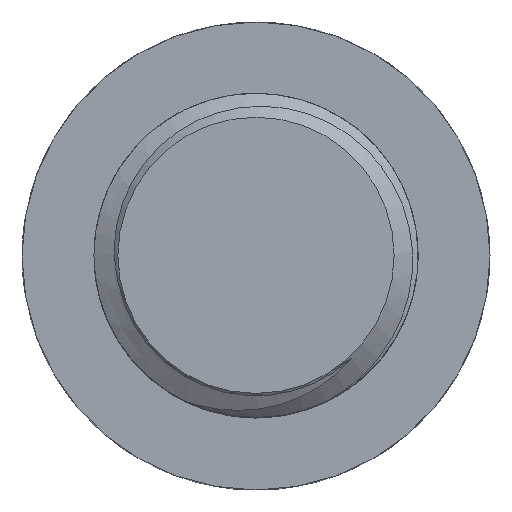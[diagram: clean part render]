
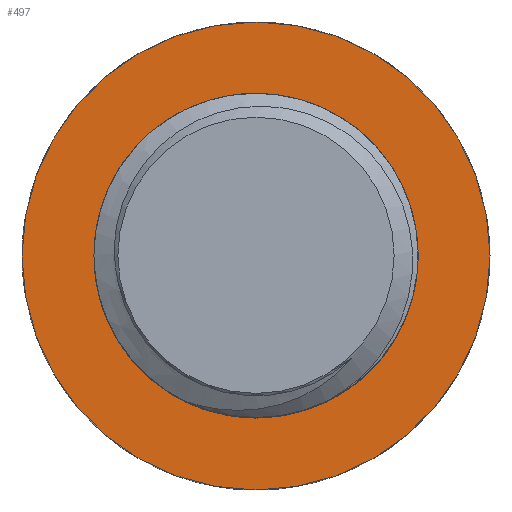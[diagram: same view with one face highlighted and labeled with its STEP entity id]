
A CAD part, top view. The second image highlights one B-rep face of the part: STEP entity #497.
In plain terms, the highlighted planar face has unit normal (0, 0, 1).
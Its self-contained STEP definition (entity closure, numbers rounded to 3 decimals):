
#22=FACE_BOUND('',#79,.T.);
#28=PLANE('',#549);
#50=FACE_OUTER_BOUND('',#78,.T.);
#78=EDGE_LOOP('',(#386));
#79=EDGE_LOOP('',(#387));
#90=CIRCLE('',#524,6.761);
#98=CIRCLE('',#550,9.761);
#192=VERTEX_POINT('',#716);
#229=VERTEX_POINT('',#1465);
#242=EDGE_CURVE('',#192,#192,#90,.F.);
#295=EDGE_CURVE('',#229,#229,#98,.T.);
#386=ORIENTED_EDGE('',*,*,#295,.F.);
#387=ORIENTED_EDGE('',*,*,#242,.T.);
#497=ADVANCED_FACE('',(#50,#22),#28,.F.);
#524=AXIS2_PLACEMENT_3D('',#718,#573,#574);
#549=AXIS2_PLACEMENT_3D('',#1464,#643,#644);
#550=AXIS2_PLACEMENT_3D('',#1466,#645,#646);
#573=DIRECTION('center_axis',(0.,0.,1.));
#574=DIRECTION('ref_axis',(1.,0.,0.));
#643=DIRECTION('center_axis',(0.,0.,-1.));
#644=DIRECTION('ref_axis',(1.,0.,0.));
#645=DIRECTION('center_axis',(0.,0.,-1.));
#646=DIRECTION('ref_axis',(1.,0.,0.));
#716=CARTESIAN_POINT('',(-6.761,0.,0.));
#718=CARTESIAN_POINT('Origin',(0.,0.,0.));
#1464=CARTESIAN_POINT('Origin',(0.,0.,0.));
#1465=CARTESIAN_POINT('',(-9.761,0.,0.));
#1466=CARTESIAN_POINT('Origin',(0.,0.,0.));
